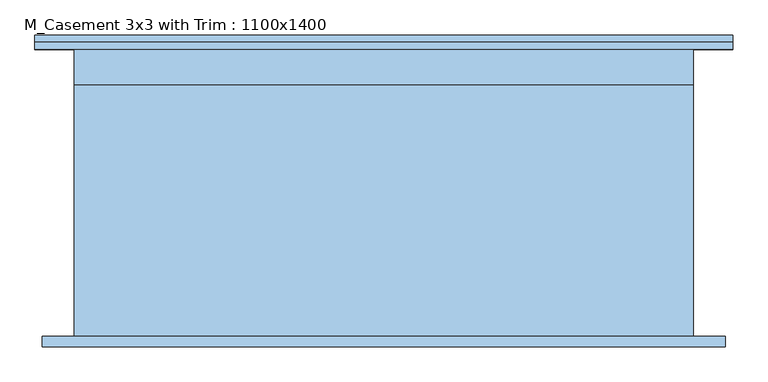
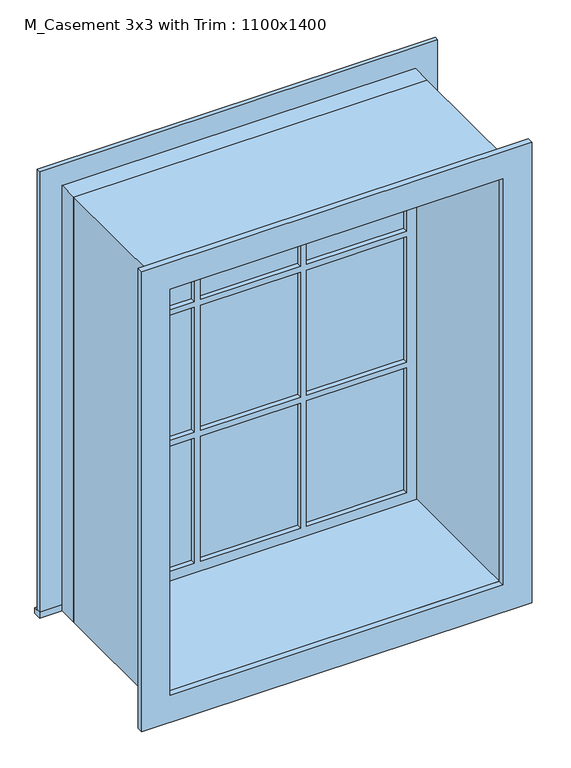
"""IFC4 building model written with IfcOpenShell, lengths in millimetres: window geometry, M_Casement 3x3 with Trim : 1100x1400."""

from ifc_helpers import new_model, si_unit, frame, origin, place, context, project, spatial, polyline, outline, extrude, source, transform, mapped, element, save


def m_casement_3x3_with_trim_1100x1400_47dc13a1(model_context):
    return source(origin(), model_context, "Body", "SweptSolid", [
        extrude(outline(polyline([(-619.95, 280.7), (619.95, 280.7), (619.95, 255.0), (-619.95, 255.0), (-619.95, 280.7)])), frame((0.0, 0.0, 915.0), z_axis=(0.0, 0.0, 1.0), x_axis=(1.0, 0.0, 0.0)), (0.0, 0.0, 1.0), 19.05),
        extrude(outline(polyline([(2295.95, -530.95), (2295.95, 530.95), (934.05, 530.95), (934.05, 619.95), (2384.95, 619.95), (2384.95, -619.95), (934.05, -619.95), (934.05, -530.95), (2295.95, -530.95)])), frame((0.0, 255.0, 0.0), z_axis=(0.0, 1.0, 0.0), x_axis=(0.0, 0.0, 1.0)), (0.0, 0.0, 1.0), 13.0),
        extrude(outline(polyline([(174.8666667, 220.125), (486.5, 220.125), (486.5, 207.425), (174.8666667, 207.425), (174.8666667, 220.125)])), frame((0.0, 0.0, 1839.8666667), z_axis=(0.0, 0.0, 1.0), x_axis=(1.0, 0.0, 0.0)), (0.0, 0.0, 1.0), 411.6333333),
        extrude(outline(polyline([(-155.8166667, 220.125), (155.8166667, 220.125), (155.8166667, 207.425), (-155.8166667, 207.425), (-155.8166667, 220.125)])), frame((0.0, 0.0, 1839.8666667), z_axis=(0.0, 0.0, 1.0), x_axis=(1.0, 0.0, 0.0)), (0.0, 0.0, 1.0), 411.6333333),
        extrude(outline(polyline([(-486.5, 220.125), (-174.8666667, 220.125), (-174.8666667, 207.425), (-486.5, 207.425), (-486.5, 220.125)])), frame((0.0, 0.0, 1839.8666667), z_axis=(0.0, 0.0, 1.0), x_axis=(1.0, 0.0, 0.0)), (0.0, 0.0, 1.0), 411.6333333),
        extrude(outline(polyline([(-486.5, 220.125), (-174.8666667, 220.125), (-174.8666667, 207.425), (-486.5, 207.425), (-486.5, 220.125)])), frame((0.0, 0.0, 1409.1833333), z_axis=(0.0, 0.0, 1.0), x_axis=(1.0, 0.0, 0.0)), (0.0, 0.0, 1.0), 411.6333333),
        extrude(outline(polyline([(-155.8166667, 220.125), (155.8166667, 220.125), (155.8166667, 207.425), (-155.8166667, 207.425), (-155.8166667, 220.125)])), frame((0.0, 0.0, 1409.1833333), z_axis=(0.0, 0.0, 1.0), x_axis=(1.0, 0.0, 0.0)), (0.0, 0.0, 1.0), 411.6333333),
        extrude(outline(polyline([(174.8666667, 220.125), (486.5, 220.125), (486.5, 207.425), (174.8666667, 207.425), (174.8666667, 220.125)])), frame((0.0, 0.0, 1409.1833333), z_axis=(0.0, 0.0, 1.0), x_axis=(1.0, 0.0, 0.0)), (0.0, 0.0, 1.0), 411.6333333),
        extrude(outline(polyline([(174.8666667, 220.125), (486.5, 220.125), (486.5, 207.425), (174.8666667, 207.425), (174.8666667, 220.125)])), frame((0.0, 0.0, 978.5), z_axis=(0.0, 0.0, 1.0), x_axis=(1.0, 0.0, 0.0)), (0.0, 0.0, 1.0), 411.6333333),
        extrude(outline(polyline([(-155.8166667, 220.125), (155.8166667, 220.125), (155.8166667, 207.425), (-155.8166667, 207.425), (-155.8166667, 220.125)])), frame((0.0, 0.0, 978.5), z_axis=(0.0, 0.0, 1.0), x_axis=(1.0, 0.0, 0.0)), (0.0, 0.0, 1.0), 411.6333333),
        extrude(outline(polyline([(-486.5, 220.125), (-174.8666667, 220.125), (-174.8666667, 207.425), (-486.5, 207.425), (-486.5, 220.125)])), frame((0.0, 0.0, 978.5), z_axis=(0.0, 0.0, 1.0), x_axis=(1.0, 0.0, 0.0)), (0.0, 0.0, 1.0), 411.6333333),
        extrude(outline(polyline([(2372.25, 607.25), (2372.25, -607.25), (857.75, -607.25), (857.75, 607.25), (2372.25, 607.25)]), holes=[polyline([(2283.25, 518.25), (946.75, 518.25), (946.75, -518.25), (2283.25, -518.25), (2283.25, 518.25)])]), frame((0.0, -274.0, 0.0), z_axis=(0.0, 1.0, 0.0), x_axis=(0.0, 0.0, 1.0)), (0.0, 0.0, 1.0), 19.0),
        extrude(outline(polyline([(2295.95, -530.95), (934.05, -530.95), (934.05, 530.95), (2295.95, 530.95), (2295.95, -530.95)]), holes=[polyline([(2251.5, -174.8666667), (1839.8666667, -174.8666667), (1839.8666667, -486.5), (2251.5, -486.5), (2251.5, -174.8666667)]), polyline([(1820.8166667, -174.8666667), (1409.1833333, -174.8666667), (1409.1833333, -486.5), (1820.8166667, -486.5), (1820.8166667, -174.8666667)]), polyline([(1390.1333333, -174.8666667), (978.5, -174.8666667), (978.5, -486.5), (1390.1333333, -486.5), (1390.1333333, -174.8666667)]), polyline([(2251.5, 155.8166667), (1839.8666667, 155.8166667), (1839.8666667, -155.8166667), (2251.5, -155.8166667), (2251.5, 155.8166667)]), polyline([(1820.8166667, 155.8166667), (1409.1833333, 155.8166667), (1409.1833333, -155.8166667), (1820.8166667, -155.8166667), (1820.8166667, 155.8166667)]), polyline([(1390.1333333, 155.8166667), (978.5, 155.8166667), (978.5, -155.8166667), (1390.1333333, -155.8166667), (1390.1333333, 155.8166667)]), polyline([(2251.5, 486.5), (1839.8666667, 486.5), (1839.8666667, 174.8666667), (2251.5, 174.8666667), (2251.5, 486.5)]), polyline([(1820.8166667, 486.5), (1409.1833333, 486.5), (1409.1833333, 174.8666667), (1820.8166667, 174.8666667), (1820.8166667, 486.5)]), polyline([(1390.1333333, 486.5), (978.5, 486.5), (978.5, 174.8666667), (1390.1333333, 174.8666667), (1390.1333333, 486.5)])]), frame((0.0, 191.55, 0.0), z_axis=(0.0, 1.0, 0.0), x_axis=(0.0, 0.0, 1.0)), (0.0, 0.0, 1.0), 44.45),
        extrude(outline(polyline([(2315.0, -550.0), (915.0, -550.0), (915.0, 550.0), (2315.0, 550.0), (2315.0, -550.0)]), holes=[polyline([(2283.25, -518.25), (2283.25, 518.25), (946.75, 518.25), (946.75, -518.25), (2283.25, -518.25)])]), frame((0.0, -255.0, 0.0), z_axis=(0.0, 1.0, 0.0), x_axis=(0.0, 0.0, 1.0)), (0.0, 0.0, 1.0), 446.55),
        extrude(outline(polyline([(2315.0, 550.0), (2315.0, -550.0), (915.0, -550.0), (915.0, 550.0), (2315.0, 550.0)]), holes=[polyline([(2295.95, 530.95), (934.05, 530.95), (934.05, -530.95), (2295.95, -530.95), (2295.95, 530.95)])]), frame((0.0, 191.55, 0.0), z_axis=(0.0, 1.0, 0.0), x_axis=(0.0, 0.0, 1.0)), (0.0, 0.0, 1.0), 63.45),
    ])


if __name__ == "__main__":
    model = new_model("IFC4")
    model_context = context("Model", 3, world=origin())
    ifc_project = project(units=[si_unit("LENGTHUNIT", "METRE", prefix="MILLI")], contexts=[model_context])
    site = spatial("IfcSite", under=ifc_project)
    building = spatial("IfcBuilding", under=site)
    placement = place(None, origin())
    m_casement_3x3_with_trim_1100x1400_shape = m_casement_3x3_with_trim_1100x1400_47dc13a1(model_context)
    element("IfcWindow", 1, ObjectType="M_Casement 3x3 with Trim : 1100x1400", at=placement, inside=building, context=model_context, shape_type="MappedRepresentation", body=[
        mapped(m_casement_3x3_with_trim_1100x1400_shape, transform((0.0, 0.0, 0.0), x_axis=(1.0, 0.0, 0.0), y_axis=(0.0, 1.0, 0.0), z_axis=(0.0, 0.0, 1.0))),
    ])
    save(model, "model.ifc")
